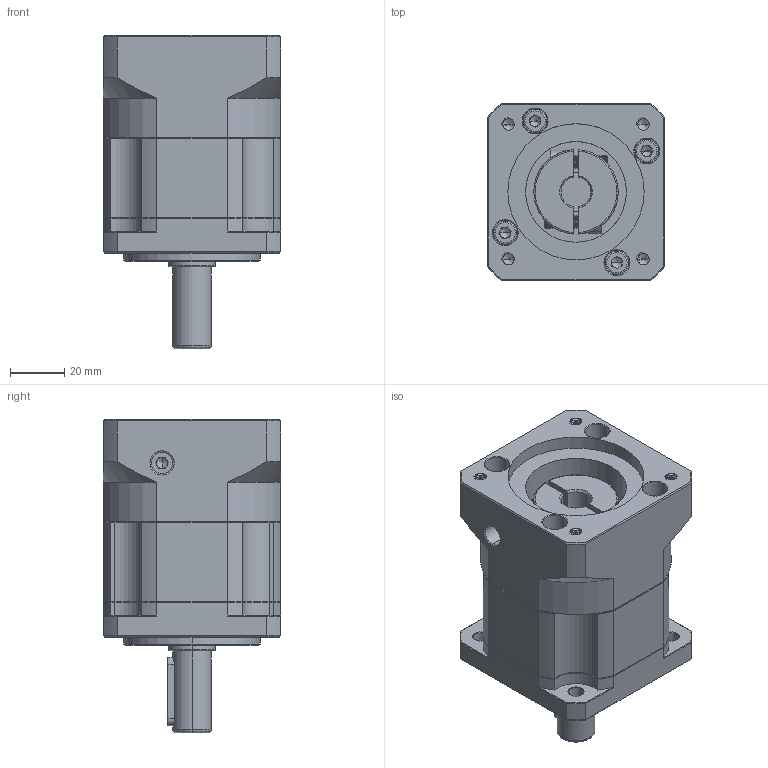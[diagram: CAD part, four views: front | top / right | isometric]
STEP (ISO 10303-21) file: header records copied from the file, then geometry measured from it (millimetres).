
FILE_DESCRIPTION (( 'STEP AP214' ), '1' );
FILE_NAME ('ZB060-D14-L1-P2-11-50-70-M5.step', '2023-08-16T06:59:16', ( '' ), ( '' ), 'SwSTEP 2.0', 'SolidWorks 2016', '' );
FILE_SCHEMA (( 'AUTOMOTIVE_DESIGN' ));
Length unit declared in the file: millimetre
Products named in the file (1): ZB060-D14-L1-P2-11-50-70-M5
Bounding box: 65 x 65 x 115 mm (x, y, z)
Volume: 269241 mm3; surface area: 54744.5 mm2
Topology: 6 solids, 6 shells, 2154 faces, 5794 edges, 3728 vertices
Faces by surface type: plane 1059, bspline 397, cylinder 383, cone 279, torus 36
Entity records: 116410 total; most frequent: CARTESIAN_POINT 41789, ORIENTED_EDGE 11528, DIRECTION 9100, EDGE_CURVE 5764, VERTEX_POINT 3728, VECTOR 3646, LINE 3646, AXIS2_PLACEMENT_3D 2727
